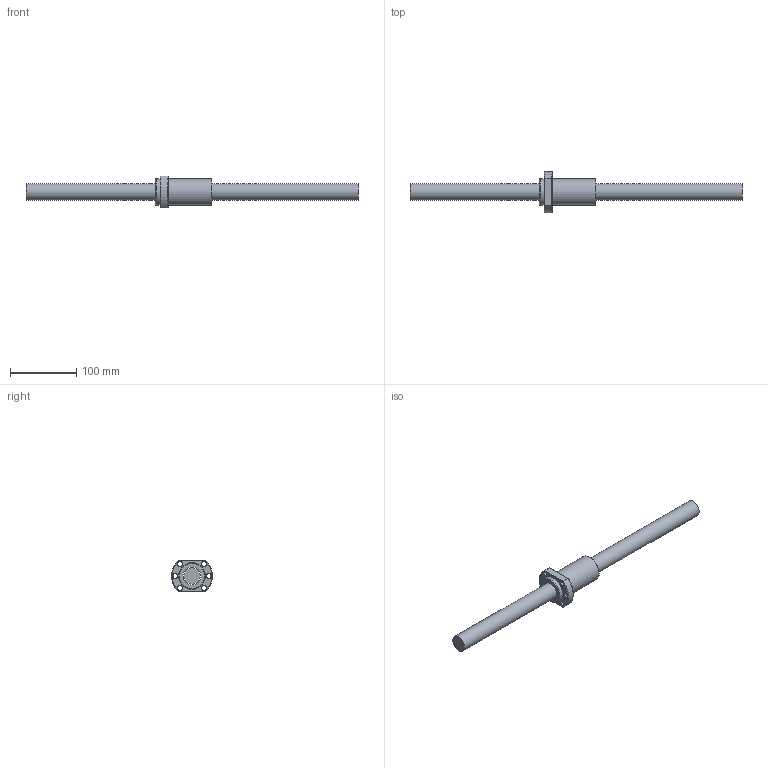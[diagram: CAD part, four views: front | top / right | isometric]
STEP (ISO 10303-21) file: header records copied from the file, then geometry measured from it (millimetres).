
FILE_DESCRIPTION (( 'STEP AP203' ), '1' );
FILE_NAME ('SFA2525-2.8.step', '2024-05-07T07:25:33', ( '' ), ( '' ), 'SwSTEP 2.0', 'SolidWorks 2022', '' );
FILE_SCHEMA (( 'CONFIG_CONTROL_DESIGN' ));
Length unit declared in the file: millimetre
Products named in the file (1): SFA2525-2.8
Bounding box: 500 x 61.8 x 48 mm (x, y, z)
Volume: 316833.1 mm3; surface area: 64033.6 mm2
Topology: 2 solids, 2 shells, 57 faces, 138 edges, 87 vertices
Faces by surface type: cylinder 20, plane 13, cone 13, torus 6, bspline 5
Full cylindrical faces by diameter (mm): 4 x1, 5 x6, 6.6 x6, 25 x1, 27.1 x1, 40 x2
Entity records: 3193 total; most frequent: CARTESIAN_POINT 2106, DIRECTION 198, ORIENTED_EDGE 172, EDGE_LOOP 96, AXIS2_PLACEMENT_3D 91, EDGE_CURVE 86, VERTEX_POINT 70, FACE_OUTER_BOUND 65
